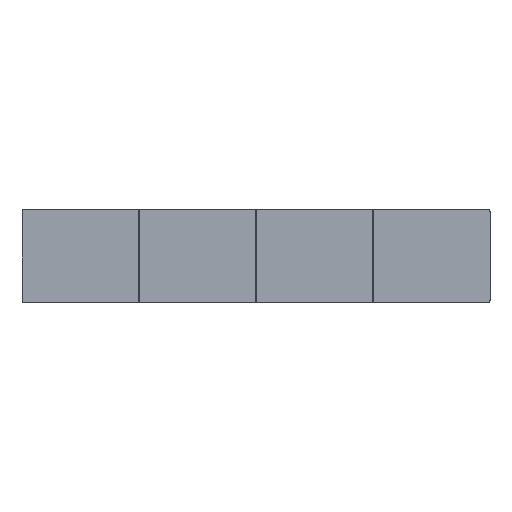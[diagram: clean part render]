
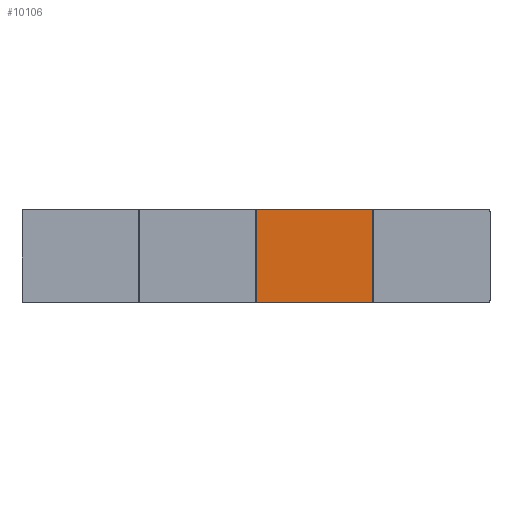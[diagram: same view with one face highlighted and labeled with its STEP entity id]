
A CAD part, top view. The second image highlights one B-rep face of the part: STEP entity #10106.
In plain terms, the highlighted planar face has unit normal (0, 0, 1).
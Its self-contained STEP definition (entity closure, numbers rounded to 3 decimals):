
#10067=CARTESIAN_POINT('',(750.,0.,740.));
#10068=DIRECTION('',(1.,0.,0.));
#10069=DIRECTION('',(0.,0.,1.));
#10070=AXIS2_PLACEMENT_3D('',#10067,#10069,#10068);
#10071=PLANE('',#10070);
#10072=CARTESIAN_POINT('',(1498.,-600.,740.));
#10073=VERTEX_POINT('',#10072);
#10074=CARTESIAN_POINT('',(1498.,600.,740.));
#10075=VERTEX_POINT('',#10074);
#10076=CARTESIAN_POINT('',(1498.,-600.,740.));
#10077=DIRECTION('',(0.,1.,0.));
#10078=VECTOR('',#10077,1200.);
#10079=LINE('',#10076,#10078);
#10080=EDGE_CURVE('',#10073,#10075,#10079,.T.);
#10081=ORIENTED_EDGE('E745',*,*,#10080,.T.);
#10082=CARTESIAN_POINT('',(2.,600.,740.));
#10083=VERTEX_POINT('',#10082);
#10084=CARTESIAN_POINT('',(1498.,600.,740.));
#10085=DIRECTION('',(-1.,0.,0.));
#10086=VECTOR('',#10085,1496.);
#10087=LINE('',#10084,#10086);
#10088=EDGE_CURVE('',#10075,#10083,#10087,.T.);
#10089=ORIENTED_EDGE('E747',*,*,#10088,.T.);
#10090=CARTESIAN_POINT('',(2.,-600.,740.));
#10091=VERTEX_POINT('',#10090);
#10092=CARTESIAN_POINT('',(2.,-600.,740.));
#10093=DIRECTION('',(0.,1.,0.));
#10094=VECTOR('',#10093,1200.);
#10095=LINE('',#10092,#10094);
#10096=EDGE_CURVE('',#10091,#10083,#10095,.T.);
#10097=ORIENTED_EDGE('E770',*,*,#10096,.F.);
#10098=CARTESIAN_POINT('',(2.,-600.,740.));
#10099=DIRECTION('',(1.,0.,0.));
#10100=VECTOR('',#10099,1496.);
#10101=LINE('',#10098,#10100);
#10102=EDGE_CURVE('',#10091,#10073,#10101,.T.);
#10103=ORIENTED_EDGE('E772',*,*,#10102,.T.);
#10104=EDGE_LOOP('',(#10081,#10089,#10097,#10103));
#10105=FACE_OUTER_BOUND('',#10104,.T.);
#10106=ADVANCED_FACE('F275',(#10105),#10071,.T.);
